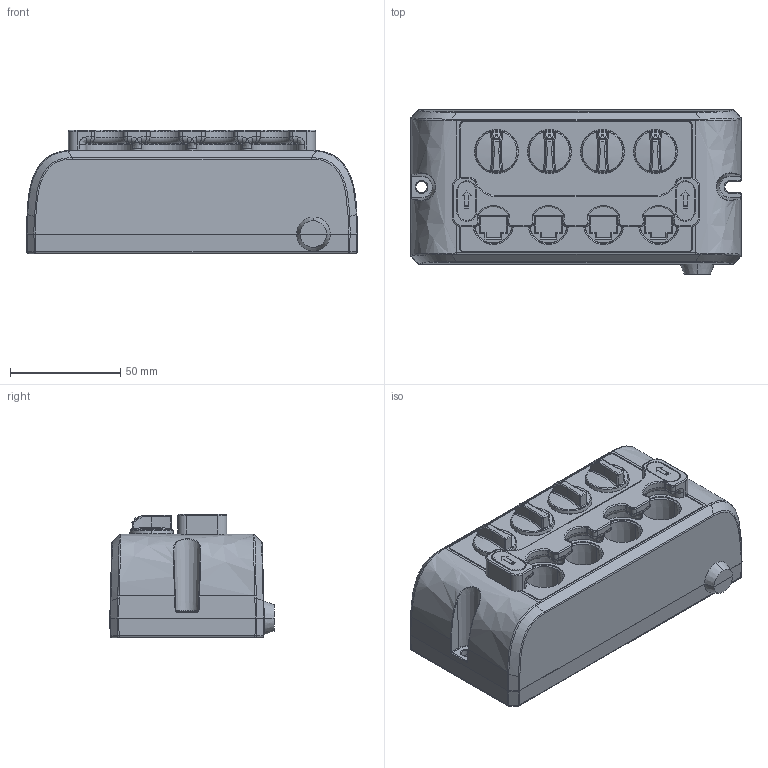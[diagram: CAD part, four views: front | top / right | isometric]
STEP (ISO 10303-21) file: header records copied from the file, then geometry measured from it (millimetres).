
FILE_DESCRIPTION (( 'STEP AP203' ), '1' );
FILE_NAME ('3D_TLB.STEP', '2022-07-27T10:24:02', ( '' ), ( '' ), 'SwSTEP 2.0', 'SolidWorks 2015', '' );
FILE_SCHEMA (( 'CONFIG_CONTROL_DESIGN' ));
Products named in the file (1): 3D_TLB
Bounding box: 150 x 74.5 x 56.1 mm (x, y, z)
Volume: 459796.4 mm3; surface area: 84920.3 mm2
Topology: 16 solids, 16 shells, 1191 faces, 2671 edges, 1536 vertices
Faces by surface type: plane 387, cylinder 255, torus 198, bspline 140, cone 125, sphere 86
Entity records: 42566 total; most frequent: CARTESIAN_POINT 16878, DIRECTION 5478, ORIENTED_EDGE 5304, EDGE_CURVE 2652, AXIS2_PLACEMENT_3D 2240, VERTEX_POINT 1532, EDGE_LOOP 1252, FACE_OUTER_BOUND 1191
